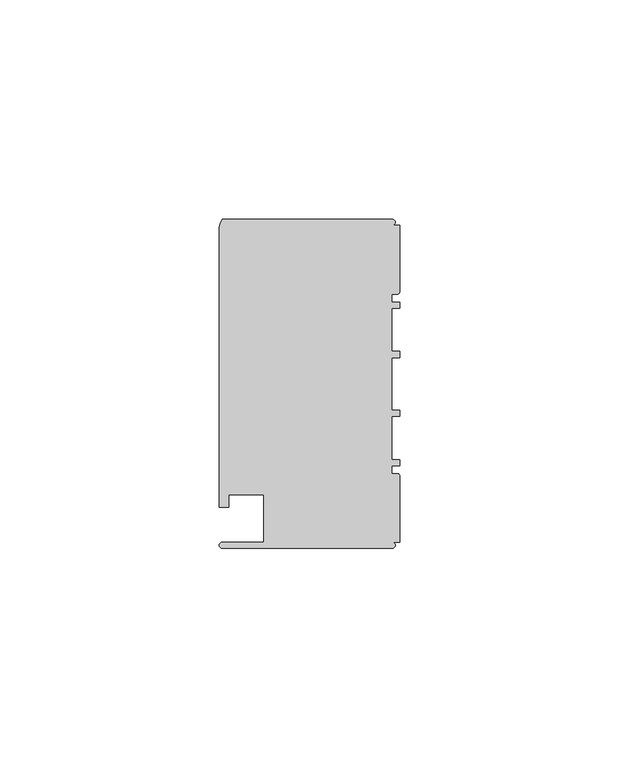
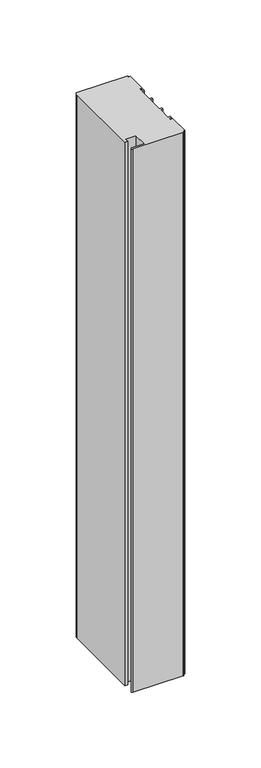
"""IFC4 building model written with IfcOpenShell, lengths in millimetres: member geometry, Прямоугольный импост : 1-AMG-1-Профиль 40Х75 Низ Л."""

from ifc_helpers import new_model, si_unit, point, frame, frame_2d, origin, place, context, project, spatial, polyline, circle_curve, trimmed, segment, composite_curve, outline, extrude, source, transform, mapped, element, save


def member_68f1cff3(model_context):
    return source(origin(), model_context, "Body", "SweptSolid", [
        extrude(outline(composite_curve([segment(polyline([(-1.7, -37.5), (-40.4, -37.5)]), True, "CONTINUOUS"), segment(trimmed(circle_curve(frame_2d((-40.4, -36.8)), 0.7), [point((-40.4, -37.5))], [point((-40.4, -36.1))], False, "CARTESIAN"), True, "CONTINUOUS"), segment(polyline([(-40.4, -36.1), (-31.0, -36.1), (-31.0, -25.25), (-39.0, -25.25), (-39.0, -28.1), (-41.1, -28.1), (-41.1, 35.6)]), True, "CONTINUOUS"), segment(trimmed(circle_curve(frame_2d((-38.1714286, 35.6)), 2.9285714), [point((-41.1, 35.6))], [point((-40.4, 37.5))], False, "CARTESIAN"), True, "CONTINUOUS"), segment(polyline([(-40.4, 37.5), (-1.7, 37.5)]), True, "CONTINUOUS"), segment(trimmed(circle_curve(frame_2d((-1.7, 36.8)), 0.7), [point((-1.7, 37.5))], [point((-1.7, 36.1))], False, "CARTESIAN"), True, "CONTINUOUS"), segment(polyline([(-1.7, 36.1), (0.0, 36.1), (0.0, 20.95)]), True, "CONTINUOUS"), segment(trimmed(circle_curve(frame_2d((-0.5, 20.95)), 0.5), [point((0.0, 20.95))], [point((-0.5, 20.45))], False, "CARTESIAN"), True, "CONTINUOUS"), segment(polyline([(-0.5, 20.45), (-1.8, 20.45), (-1.8, 18.65), (0.0, 18.65), (0.0, 17.25), (-1.8, 17.25), (-1.8, 7.4), (0.0, 7.4), (0.0, 6.0), (-1.8, 6.0), (-1.8, -6.0), (0.0, -6.0), (0.0, -7.4), (-1.8, -7.4), (-1.8, -17.25), (0.0, -17.25), (0.0, -18.65), (-1.8, -18.65), (-1.8, -20.45), (-0.5, -20.45)]), True, "CONTINUOUS"), segment(trimmed(circle_curve(frame_2d((-0.5, -20.95)), 0.5), [point((-0.5, -20.45))], [point((0.0, -20.95))], False, "CARTESIAN"), True, "CONTINUOUS"), segment(polyline([(0.0, -20.95), (0.0, -36.1), (-1.7, -36.1)]), True, "CONTINUOUS"), segment(trimmed(circle_curve(frame_2d((-1.7, -36.8)), 0.7), [point((-1.7, -36.1))], [point((-1.7, -37.5))], False, "CARTESIAN"), True, "CONTINUOUS")], self_intersect=False)), frame((0.0, 0.0, -440.0), z_axis=(0.0, 0.0, 1.0), x_axis=(1.0, 0.0, 0.0)), (0.0, 0.0, 1.0), 440.0),
    ])


if __name__ == "__main__":
    model = new_model("IFC4")
    model_context = context("Model", 3, world=origin())
    ifc_project = project(units=[si_unit("LENGTHUNIT", "METRE", prefix="MILLI")], contexts=[model_context])
    site = spatial("IfcSite", under=ifc_project)
    building = spatial("IfcBuilding", under=site)
    placement = place(None, origin())
    member_shape = member_68f1cff3(model_context)
    element("IfcMember", 1, ObjectType="Прямоугольный импост : 1-AMG-1-Профиль 40Х75 Низ Л", at=placement, inside=building, context=model_context, shape_type="MappedRepresentation", body=[
        mapped(member_shape, transform((0.0, 0.0, 0.0), x_axis=(1.0, 0.0, 0.0), y_axis=(0.0, 1.0, 0.0), z_axis=(0.0, 0.0, 1.0))),
    ])
    save(model, "model.ifc")
